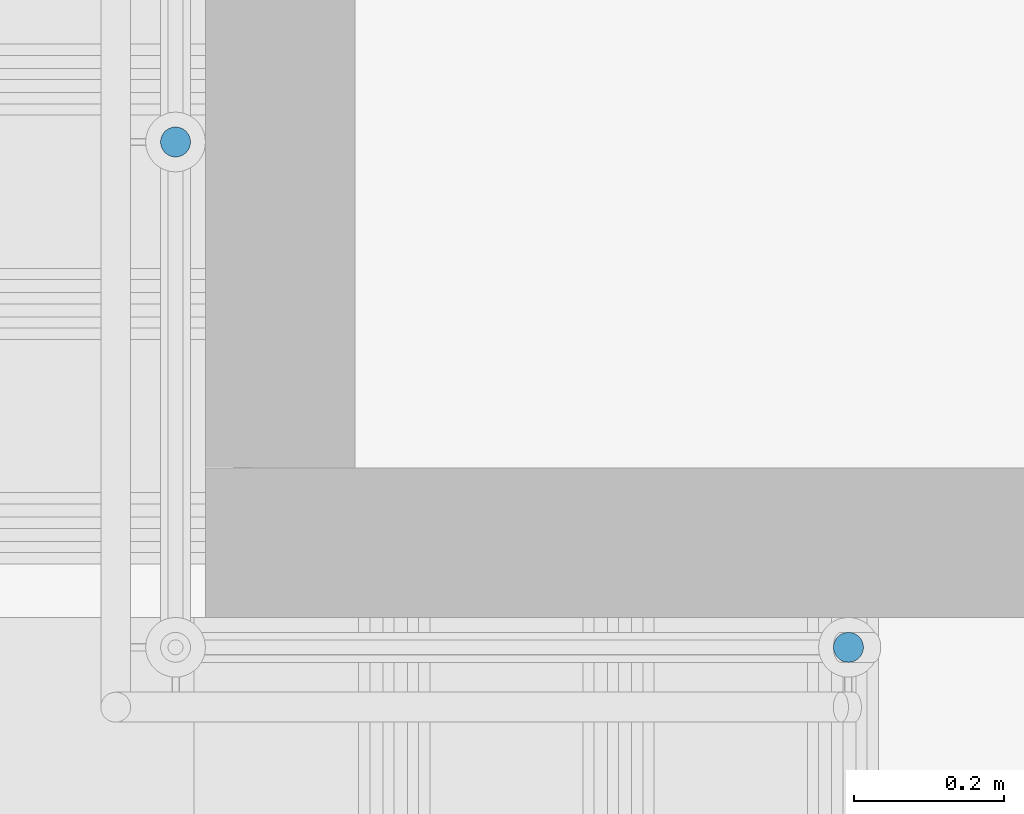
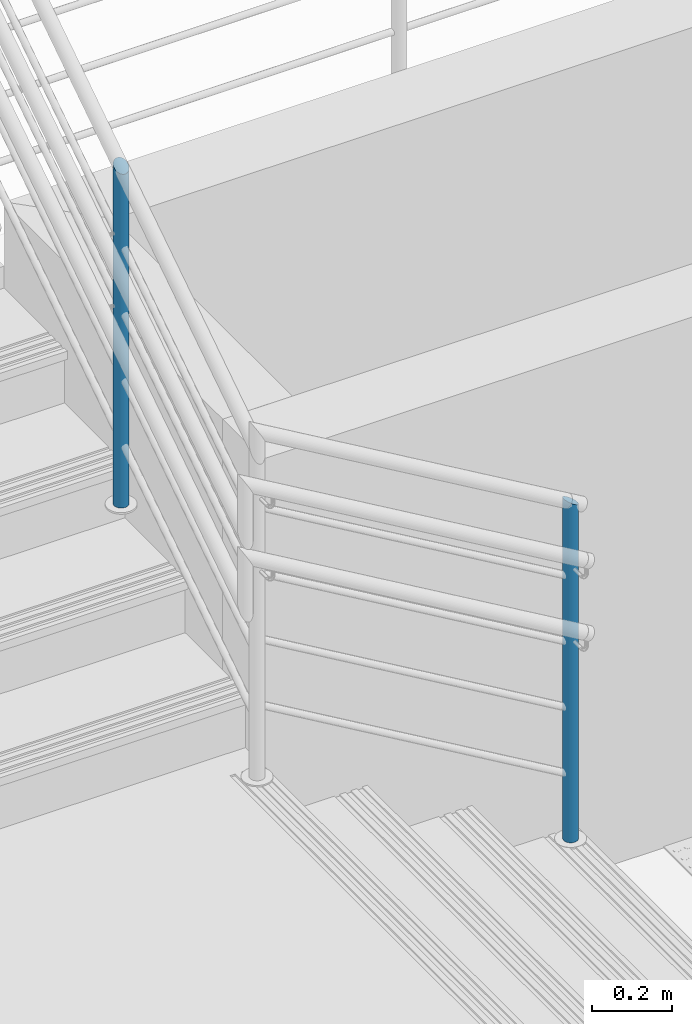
# One storey, part 65 of 237: 2 building element parts, 1 element without a shape of its own.
"""IFC2X3 building model written with IfcOpenShell, lengths in millimetres."""

from ifc_helpers import new_model, entity, si_unit, converted_unit, derived_unit, money_unit, direction, frame, origin_with_axes, place, context, subcontext, project, spatial, faceted_brep, material, type_object, element, aggregate, save


model = new_model("IFC2X3")

# Units and contexts
model_context = context("Model", 3, precision=0.01, world=origin_with_axes(), true_north=direction((0.0, 1.0)))
body_context = subcontext(model_context, "Body", "Model", "MODEL_VIEW")
ifc_project = project(units=[si_unit("LENGTHUNIT", "METRE", prefix="MILLI"), si_unit("AREAUNIT", "SQUARE_METRE"), si_unit("VOLUMEUNIT", "CUBIC_METRE"), converted_unit("PLANEANGLEUNIT", "DEGREE", entity("IfcPlaneAngleMeasure", 0.0174532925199), si_unit("PLANEANGLEUNIT", "RADIAN"), dimensions=[0, 0, 0, 0, 0, 0, 0]), money_unit("USD"), converted_unit("TIMEUNIT", "Year", entity("IfcTimeMeasure", 31556926.0), si_unit("TIMEUNIT", "SECOND"), dimensions=[0, 0, 1, 0, 0, 0, 0]), si_unit("MASSUNIT", "GRAM", prefix="KILO"), si_unit("THERMODYNAMICTEMPERATUREUNIT", "DEGREE_CELSIUS"), si_unit("LUMINOUSINTENSITYUNIT", "LUMEN"), si_unit("ENERGYUNIT", "JOULE", prefix="MEGA"), derived_unit("THERMALCONDUCTANCEUNIT", [(si_unit("POWERUNIT", "WATT"), 1), (si_unit("LENGTHUNIT", "METRE"), -1), (si_unit("THERMODYNAMICTEMPERATUREUNIT", "KELVIN"), -1)]), derived_unit("SPECIFICHEATCAPACITYUNIT", [(si_unit("ENERGYUNIT", "JOULE"), 1), (si_unit("MASSUNIT", "GRAM", prefix="KILO"), -1), (si_unit("THERMODYNAMICTEMPERATUREUNIT", "KELVIN"), -1)]), derived_unit("MASSDENSITYUNIT", [(si_unit("MASSUNIT", "GRAM", prefix="KILO"), 1), (si_unit("VOLUMEUNIT", "CUBIC_METRE"), -1)])], contexts=[model_context])

# Site, building, storey
site_placement = place(None, origin_with_axes())
site = spatial("IfcSite", under=ifc_project, at=site_placement, Name="Local", CompositionType="ELEMENT")
building_placement = place(site_placement, origin_with_axes())
building = spatial("IfcBuilding", under=site, at=building_placement, Name="Construção", CompositionType="ELEMENT")
storey_placement = place(building_placement, origin_with_axes())
storey = spatial("IfcBuildingStorey", under=building, at=storey_placement, Name="Pavimento Térreo", CompositionType="ELEMENT", Elevation=0.0)

# Railing, building element parts
railing_type = type_object("IfcRailingType", Name="Tipo de Guarda-Corpo", PredefinedType="NOTDEFINED")
railing_placement = place(storey_placement, frame((84562.8908804, 21657.2175927, -4868.39227091), z_axis=(0.0, 0.0, 1.0), x_axis=(1.0, 0.0, 0.0)))
railing = element("IfcRailing", 1, at=railing_placement, inside=storey, type_object=railing_type, Name="Guarda-Corpo - 002", PredefinedType="NOTDEFINED")
ifc_material = material(Name="Aço - Inoxidável")
building_element_part_1_placement = place(railing_placement, origin_with_axes())
building_element_part_1 = element("IfcBuildingElementPart", 2, at=building_element_part_1_placement, material=ifc_material, Name="Aço - Inoxidável", context=body_context, shape_type="Brep", body=[
    faceted_brep([(-2930.45842112, 694.897672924, 28.46674086), (-2933.93138467, 695.201517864, 28.46674086), (-2933.93138467, 695.201517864, 1053.46674086), (-2930.45842112, 694.897672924, 1051.42926247), (-2937.40434823, 694.897672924, 28.46674086), (-2927.09098181, 693.99537028, 28.46674086), (-2923.93138467, 692.52202594, 28.46674086), (-2921.07563248, 690.522406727, 28.46674086), (-2918.61049581, 688.057270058, 28.46674086), (-2916.6108766, 685.201517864, 28.46674086), (-2915.13753226, 682.041920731, 28.46674086), (-2914.23522961, 678.674481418, 28.46674086), (-2913.93138467, 675.201517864, 28.46674086), (-2914.23522961, 671.728554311, 28.46674086), (-2915.13753226, 668.361114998, 28.46674086), (-2916.6108766, 665.201517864, 28.46674086), (-2918.61049581, 662.34576567, 28.46674086), (-2921.07563248, 659.880629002, 28.46674086), (-2923.93138467, 657.881009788, 28.46674086), (-2927.09098181, 656.407665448, 28.46674086), (-2930.45842112, 655.505362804, 28.46674086), (-2933.93138467, 655.201517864, 28.46674086), (-2937.40434823, 655.505362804, 28.46674086), (-2940.77178754, 656.407665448, 28.46674086), (-2943.93138467, 657.881009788, 28.46674086), (-2946.78713687, 659.880629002, 28.46674086), (-2949.25227353, 662.34576567, 28.46674086), (-2951.25189275, 665.201517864, 28.46674086), (-2952.72523709, 668.361114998, 28.46674086), (-2953.62753973, 671.728554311, 28.46674086), (-2953.93138467, 675.201517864, 28.46674086), (-2953.62753973, 678.674481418, 28.46674086), (-2952.72523709, 682.041920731, 28.46674086), (-2951.25189275, 685.201517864, 28.46674086), (-2949.25227353, 688.057270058, 28.46674086), (-2946.78713687, 690.522406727, 28.46674086), (-2943.93138467, 692.52202594, 28.46674086), (-2940.77178754, 693.99537028, 28.46674086), (-2937.40434823, 694.897672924, 1055.50421925), (-2914.23522961, 671.728554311, 1041.91162669), (-2913.93138467, 675.201517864, 1041.73337043), (-2914.23522961, 678.674481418, 1041.91162669), (-2915.13753226, 682.041920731, 1042.44097925), (-2916.6108766, 685.201517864, 1043.305344), (-2918.61049581, 688.057270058, 1044.47845764), (-2921.07563248, 690.522406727, 1045.92467573), (-2923.93138467, 692.52202594, 1047.60005565), (-2927.09098181, 693.99537028, 1049.45369182), (-2940.77178754, 693.99537028, 1057.4797899), (-2943.93138467, 692.52202594, 1059.33342608), (-2946.78713687, 690.522406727, 1061.00880599), (-2949.25227353, 688.057270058, 1062.45502408), (-2951.25189275, 685.201517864, 1063.62813772), (-2952.72523709, 682.041920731, 1064.49250247), (-2953.62753973, 678.674481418, 1065.02185503), (-2953.93138467, 675.201517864, 1065.20011129), (-2953.62753973, 671.728554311, 1065.02185503), (-2952.72523709, 668.361114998, 1064.49250247), (-2951.25189275, 665.201517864, 1063.62813772), (-2949.25227353, 662.34576567, 1062.45502408), (-2946.78713687, 659.880629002, 1061.00880599), (-2943.93138467, 657.881009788, 1059.33342608), (-2940.77178754, 656.407665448, 1057.4797899), (-2937.40434823, 655.505362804, 1055.50421925), (-2933.93138467, 655.201517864, 1053.46674086), (-2930.45842112, 655.505362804, 1051.42926247), (-2927.09098181, 656.407665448, 1049.45369182), (-2923.93138467, 657.881009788, 1047.60005565), (-2921.07563248, 659.880629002, 1045.92467573), (-2918.61049581, 662.34576567, 1044.47845764), (-2916.6108766, 665.201517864, 1043.305344), (-2915.13753226, 668.361114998, 1042.44097925)], [[[0, 1, 2, 3]], [[4, 1, 0, 5, 6, 7, 8, 9, 10, 11, 12, 13, 14, 15, 16, 17, 18, 19, 20, 21, 22, 23, 24, 25, 26, 27, 28, 29, 30, 31, 32, 33, 34, 35, 36, 37]], [[1, 4, 38, 2]], [[39, 40, 41, 42, 43, 44, 45, 46, 47, 3, 2, 38, 48, 49, 50, 51, 52, 53, 54, 55, 56, 57, 58, 59, 60, 61, 62, 63, 64, 65, 66, 67, 68, 69, 70, 71]], [[5, 0, 3, 47]], [[6, 5, 47, 46]], [[7, 6, 46, 45]], [[8, 7, 45, 44]], [[9, 8, 44, 43]], [[10, 9, 43, 42]], [[11, 10, 42, 41]], [[12, 11, 41, 40]], [[13, 12, 40, 39]], [[14, 13, 39, 71]], [[15, 14, 71, 70]], [[16, 15, 70, 69]], [[17, 16, 69, 68]], [[18, 17, 68, 67]], [[19, 18, 67, 66]], [[20, 19, 66, 65]], [[21, 20, 65, 64]], [[22, 21, 64, 63]], [[23, 22, 63, 62]], [[24, 23, 62, 61]], [[25, 24, 61, 60]], [[26, 25, 60, 59]], [[27, 26, 59, 58]], [[28, 27, 58, 57]], [[29, 28, 57, 56]], [[30, 29, 56, 55]], [[31, 30, 55, 54]], [[32, 31, 54, 53]], [[33, 32, 53, 52]], [[34, 33, 52, 51]], [[35, 34, 51, 50]], [[36, 35, 50, 49]], [[37, 36, 49, 48]], [[4, 37, 48, 38]]]),
])
building_element_part_2_placement = place(railing_placement, origin_with_axes())
building_element_part_2 = element("IfcBuildingElementPart", 3, at=building_element_part_2_placement, material=ifc_material, Name="Aço - Inoxidável", context=body_context, shape_type="Brep", body=[
    faceted_brep([(-3814.23522961, 1347.56235306, 949.63986772), (-3813.93138467, 1351.03531661, 949.63986772), (-3813.93138467, 1351.03531661, 1974.63986772), (-3814.23522961, 1347.56235306, 1972.3641641), (-3814.23522961, 1354.50828017, 949.63986772), (-3815.13753226, 1344.19491375, 949.63986772), (-3816.6108766, 1341.03531661, 949.63986772), (-3818.61049581, 1338.17956442, 949.63986772), (-3821.07563248, 1335.71442775, 949.63986772), (-3823.93138467, 1333.71480854, 949.63986772), (-3827.09098181, 1332.2414642, 949.63986772), (-3830.45842112, 1331.33916155, 949.63986772), (-3833.93138467, 1331.03531661, 949.63986772), (-3837.40434823, 1331.33916155, 949.63986772), (-3840.77178754, 1332.2414642, 949.63986772), (-3843.93138467, 1333.71480854, 949.63986772), (-3846.78713687, 1335.71442775, 949.63986772), (-3849.25227353, 1338.17956442, 949.63986772), (-3851.25189275, 1341.03531661, 949.63986772), (-3852.72523709, 1344.19491375, 949.63986772), (-3853.62753973, 1347.56235306, 949.63986772), (-3853.93138467, 1351.03531661, 949.63986772), (-3853.62753973, 1354.50828017, 949.63986772), (-3852.72523709, 1357.87571948, 949.63986772), (-3851.25189275, 1361.03531661, 949.63986772), (-3849.25227353, 1363.89106881, 949.63986772), (-3846.78713687, 1366.35620548, 949.63986772), (-3843.93138467, 1368.35582469, 949.63986772), (-3840.77178754, 1369.82916903, 949.63986772), (-3837.40434823, 1370.73147167, 949.63986772), (-3833.93138467, 1371.03531661, 949.63986772), (-3830.45842112, 1370.73147167, 949.63986772), (-3827.09098181, 1369.82916903, 949.63986772), (-3823.93138467, 1368.35582469, 949.63986772), (-3821.07563248, 1366.35620548, 949.63986772), (-3818.61049581, 1363.89106881, 949.63986772), (-3816.6108766, 1361.03531661, 949.63986772), (-3815.13753226, 1357.87571948, 949.63986772), (-3814.23522961, 1354.50828017, 1976.91557134), (-3837.40434823, 1331.33916155, 1961.73371115), (-3833.93138467, 1331.03531661, 1961.53461288), (-3830.45842112, 1331.33916155, 1961.73371115), (-3827.09098181, 1332.2414642, 1962.32495645), (-3823.93138467, 1333.71480854, 1963.29038411), (-3821.07563248, 1335.71442775, 1964.60066008), (-3818.61049581, 1338.17956442, 1966.21597229), (-3816.6108766, 1341.03531661, 1968.0872403), (-3815.13753226, 1344.19491375, 1970.15760658), (-3815.13753226, 1357.87571948, 1979.12212886), (-3816.6108766, 1361.03531661, 1981.19249514), (-3818.61049581, 1363.89106881, 1983.06376315), (-3821.07563248, 1366.35620548, 1984.67907536), (-3823.93138467, 1368.35582469, 1985.98935133), (-3827.09098181, 1369.82916903, 1986.95477898), (-3830.45842112, 1370.73147167, 1987.54602429), (-3833.93138467, 1371.03531661, 1987.74512256), (-3837.40434823, 1370.73147167, 1987.54602429), (-3840.77178754, 1369.82916903, 1986.95477898), (-3843.93138467, 1368.35582469, 1985.98935133), (-3846.78713687, 1366.35620548, 1984.67907536), (-3849.25227353, 1363.89106881, 1983.06376315), (-3851.25189275, 1361.03531661, 1981.19249514), (-3852.72523709, 1357.87571948, 1979.12212886), (-3853.62753973, 1354.50828017, 1976.91557134), (-3853.93138467, 1351.03531661, 1974.63986772), (-3853.62753973, 1347.56235306, 1972.3641641), (-3852.72523709, 1344.19491375, 1970.15760658), (-3851.25189275, 1341.03531661, 1968.0872403), (-3849.25227353, 1338.17956442, 1966.21597229), (-3846.78713687, 1335.71442775, 1964.60066008), (-3843.93138467, 1333.71480854, 1963.29038411), (-3840.77178754, 1332.2414642, 1962.32495645)], [[[0, 1, 2, 3]], [[4, 1, 0, 5, 6, 7, 8, 9, 10, 11, 12, 13, 14, 15, 16, 17, 18, 19, 20, 21, 22, 23, 24, 25, 26, 27, 28, 29, 30, 31, 32, 33, 34, 35, 36, 37]], [[1, 4, 38, 2]], [[39, 40, 41, 42, 43, 44, 45, 46, 47, 3, 2, 38, 48, 49, 50, 51, 52, 53, 54, 55, 56, 57, 58, 59, 60, 61, 62, 63, 64, 65, 66, 67, 68, 69, 70, 71]], [[5, 0, 3, 47]], [[6, 5, 47, 46]], [[7, 6, 46, 45]], [[8, 7, 45, 44]], [[9, 8, 44, 43]], [[10, 9, 43, 42]], [[11, 10, 42, 41]], [[12, 11, 41, 40]], [[13, 12, 40, 39]], [[14, 13, 39, 71]], [[15, 14, 71, 70]], [[16, 15, 70, 69]], [[17, 16, 69, 68]], [[18, 17, 68, 67]], [[19, 18, 67, 66]], [[20, 19, 66, 65]], [[21, 20, 65, 64]], [[22, 21, 64, 63]], [[23, 22, 63, 62]], [[24, 23, 62, 61]], [[25, 24, 61, 60]], [[26, 25, 60, 59]], [[27, 26, 59, 58]], [[28, 27, 58, 57]], [[29, 28, 57, 56]], [[30, 29, 56, 55]], [[31, 30, 55, 54]], [[32, 31, 54, 53]], [[33, 32, 53, 52]], [[34, 33, 52, 51]], [[35, 34, 51, 50]], [[36, 35, 50, 49]], [[37, 36, 49, 48]], [[4, 37, 48, 38]]]),
])
aggregate(railing, [building_element_part_1, building_element_part_2])

save(model, "model.ifc")
